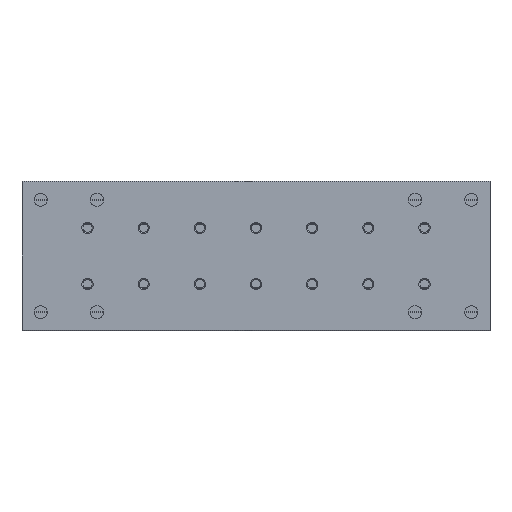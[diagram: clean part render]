
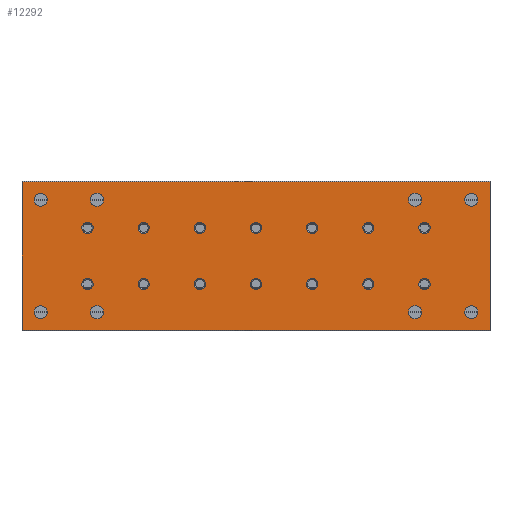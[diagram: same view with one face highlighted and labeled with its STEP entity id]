
A CAD part, front view. The second image highlights one B-rep face of the part: STEP entity #12292.
In plain terms, the highlighted planar face has unit normal (0, -1, 0).
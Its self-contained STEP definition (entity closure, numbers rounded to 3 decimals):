
#577=LINE('',#18940,#1627);
#599=LINE('',#18984,#1649);
#601=LINE('',#19032,#1651);
#602=LINE('',#19034,#1652);
#1627=VECTOR('',#14722,1000.);
#1649=VECTOR('',#14750,1000.);
#1651=VECTOR('',#14798,1000.);
#1652=VECTOR('',#14799,1000.);
#2790=ORIENTED_EDGE('',*,*,#6449,.F.);
#2791=ORIENTED_EDGE('',*,*,#6450,.F.);
#2792=ORIENTED_EDGE('',*,*,#6451,.F.);
#2793=ORIENTED_EDGE('',*,*,#6452,.F.);
#2794=ORIENTED_EDGE('',*,*,#6453,.F.);
#2795=ORIENTED_EDGE('',*,*,#6454,.F.);
#2796=ORIENTED_EDGE('',*,*,#6455,.F.);
#2797=ORIENTED_EDGE('',*,*,#6456,.F.);
#2798=ORIENTED_EDGE('',*,*,#6457,.F.);
#2799=ORIENTED_EDGE('',*,*,#6458,.F.);
#2800=ORIENTED_EDGE('',*,*,#6459,.F.);
#2801=ORIENTED_EDGE('',*,*,#6460,.F.);
#2802=ORIENTED_EDGE('',*,*,#6461,.F.);
#2803=ORIENTED_EDGE('',*,*,#6462,.F.);
#2804=ORIENTED_EDGE('',*,*,#6463,.F.);
#2805=ORIENTED_EDGE('',*,*,#6464,.F.);
#2806=ORIENTED_EDGE('',*,*,#6465,.F.);
#2807=ORIENTED_EDGE('',*,*,#6466,.F.);
#2808=ORIENTED_EDGE('',*,*,#6467,.T.);
#2809=ORIENTED_EDGE('',*,*,#6468,.F.);
#2810=ORIENTED_EDGE('',*,*,#6469,.F.);
#2811=ORIENTED_EDGE('',*,*,#6470,.F.);
#2812=ORIENTED_EDGE('',*,*,#6425,.T.);
#2813=ORIENTED_EDGE('',*,*,#6471,.F.);
#2814=ORIENTED_EDGE('',*,*,#6472,.F.);
#2815=ORIENTED_EDGE('',*,*,#6447,.T.);
#6425=EDGE_CURVE('',#8243,#8242,#577,.T.);
#6447=EDGE_CURVE('',#8262,#8243,#599,.T.);
#6449=EDGE_CURVE('',#8263,#8263,#9380,.T.);
#6450=EDGE_CURVE('',#8264,#8264,#9381,.T.);
#6451=EDGE_CURVE('',#8265,#8265,#9382,.T.);
#6452=EDGE_CURVE('',#8266,#8266,#9383,.T.);
#6453=EDGE_CURVE('',#8267,#8267,#9384,.T.);
#6454=EDGE_CURVE('',#8268,#8268,#9385,.T.);
#6455=EDGE_CURVE('',#8269,#8269,#9386,.T.);
#6456=EDGE_CURVE('',#8270,#8270,#9387,.T.);
#6457=EDGE_CURVE('',#8271,#8271,#9388,.T.);
#6458=EDGE_CURVE('',#8272,#8272,#9389,.T.);
#6459=EDGE_CURVE('',#8273,#8273,#9390,.T.);
#6460=EDGE_CURVE('',#8274,#8274,#9391,.T.);
#6461=EDGE_CURVE('',#8275,#8275,#9392,.T.);
#6462=EDGE_CURVE('',#8276,#8276,#9393,.T.);
#6463=EDGE_CURVE('',#8277,#8277,#9394,.T.);
#6464=EDGE_CURVE('',#8278,#8278,#9395,.T.);
#6465=EDGE_CURVE('',#8279,#8279,#9396,.T.);
#6466=EDGE_CURVE('',#8280,#8280,#9397,.T.);
#6467=EDGE_CURVE('',#8281,#8281,#9398,.T.);
#6468=EDGE_CURVE('',#8282,#8282,#9399,.T.);
#6469=EDGE_CURVE('',#8283,#8283,#9400,.T.);
#6470=EDGE_CURVE('',#8284,#8284,#9401,.T.);
#6471=EDGE_CURVE('',#8285,#8242,#601,.T.);
#6472=EDGE_CURVE('',#8262,#8285,#602,.T.);
#8242=VERTEX_POINT('',#18939);
#8243=VERTEX_POINT('',#18941);
#8262=VERTEX_POINT('',#18985);
#8263=VERTEX_POINT('',#18989);
#8264=VERTEX_POINT('',#18991);
#8265=VERTEX_POINT('',#18993);
#8266=VERTEX_POINT('',#18995);
#8267=VERTEX_POINT('',#18997);
#8268=VERTEX_POINT('',#18999);
#8269=VERTEX_POINT('',#19001);
#8270=VERTEX_POINT('',#19003);
#8271=VERTEX_POINT('',#19005);
#8272=VERTEX_POINT('',#19007);
#8273=VERTEX_POINT('',#19009);
#8274=VERTEX_POINT('',#19011);
#8275=VERTEX_POINT('',#19013);
#8276=VERTEX_POINT('',#19015);
#8277=VERTEX_POINT('',#19017);
#8278=VERTEX_POINT('',#19019);
#8279=VERTEX_POINT('',#19021);
#8280=VERTEX_POINT('',#19023);
#8281=VERTEX_POINT('',#19025);
#8282=VERTEX_POINT('',#19027);
#8283=VERTEX_POINT('',#19029);
#8284=VERTEX_POINT('',#19031);
#8285=VERTEX_POINT('',#19033);
#9380=CIRCLE('',#13054,1.5);
#9381=CIRCLE('',#13055,1.5);
#9382=CIRCLE('',#13056,1.5);
#9383=CIRCLE('',#13057,1.5);
#9384=CIRCLE('',#13058,1.5);
#9385=CIRCLE('',#13059,1.5);
#9386=CIRCLE('',#13060,1.5);
#9387=CIRCLE('',#13061,1.5);
#9388=CIRCLE('',#13062,1.5);
#9389=CIRCLE('',#13063,1.5);
#9390=CIRCLE('',#13064,1.5);
#9391=CIRCLE('',#13065,1.5);
#9392=CIRCLE('',#13066,1.5);
#9393=CIRCLE('',#13067,1.5);
#9394=CIRCLE('',#13068,1.75);
#9395=CIRCLE('',#13069,1.75);
#9396=CIRCLE('',#13070,1.75);
#9397=CIRCLE('',#13071,1.75);
#9398=CIRCLE('',#13072,1.75);
#9399=CIRCLE('',#13073,1.75);
#9400=CIRCLE('',#13074,1.75);
#9401=CIRCLE('',#13075,1.75);
#10165=EDGE_LOOP('',(#2790));
#10166=EDGE_LOOP('',(#2791));
#10167=EDGE_LOOP('',(#2792));
#10168=EDGE_LOOP('',(#2793));
#10169=EDGE_LOOP('',(#2794));
#10170=EDGE_LOOP('',(#2795));
#10171=EDGE_LOOP('',(#2796));
#10172=EDGE_LOOP('',(#2797));
#10173=EDGE_LOOP('',(#2798));
#10174=EDGE_LOOP('',(#2799));
#10175=EDGE_LOOP('',(#2800));
#10176=EDGE_LOOP('',(#2801));
#10177=EDGE_LOOP('',(#2802));
#10178=EDGE_LOOP('',(#2803));
#10179=EDGE_LOOP('',(#2804));
#10180=EDGE_LOOP('',(#2805));
#10181=EDGE_LOOP('',(#2806));
#10182=EDGE_LOOP('',(#2807));
#10183=EDGE_LOOP('',(#2808));
#10184=EDGE_LOOP('',(#2809));
#10185=EDGE_LOOP('',(#2810));
#10186=EDGE_LOOP('',(#2811));
#10187=EDGE_LOOP('',(#2812,#2813,#2814,#2815));
#11069=FACE_BOUND('',#10165,.T.);
#11070=FACE_BOUND('',#10166,.T.);
#11071=FACE_BOUND('',#10167,.T.);
#11072=FACE_BOUND('',#10168,.T.);
#11073=FACE_BOUND('',#10169,.T.);
#11074=FACE_BOUND('',#10170,.T.);
#11075=FACE_BOUND('',#10171,.T.);
#11076=FACE_BOUND('',#10172,.T.);
#11077=FACE_BOUND('',#10173,.T.);
#11078=FACE_BOUND('',#10174,.T.);
#11079=FACE_BOUND('',#10175,.T.);
#11080=FACE_BOUND('',#10176,.T.);
#11081=FACE_BOUND('',#10177,.T.);
#11082=FACE_BOUND('',#10178,.T.);
#11083=FACE_BOUND('',#10179,.T.);
#11084=FACE_BOUND('',#10180,.T.);
#11085=FACE_BOUND('',#10181,.T.);
#11086=FACE_BOUND('',#10182,.T.);
#11087=FACE_BOUND('',#10183,.T.);
#11088=FACE_BOUND('',#10184,.T.);
#11089=FACE_BOUND('',#10185,.T.);
#11090=FACE_BOUND('',#10186,.T.);
#11091=FACE_BOUND('',#10187,.T.);
#11973=PLANE('',#13053);
#12292=ADVANCED_FACE('',(#11069,#11070,#11071,#11072,#11073,#11074,#11075,
#11076,#11077,#11078,#11079,#11080,#11081,#11082,#11083,#11084,#11085,#11086,
#11087,#11088,#11089,#11090,#11091),#11973,.F.);
#13053=AXIS2_PLACEMENT_3D('',#18987,#14752,#14753);
#13054=AXIS2_PLACEMENT_3D('',#18988,#14754,#14755);
#13055=AXIS2_PLACEMENT_3D('',#18990,#14756,#14757);
#13056=AXIS2_PLACEMENT_3D('',#18992,#14758,#14759);
#13057=AXIS2_PLACEMENT_3D('',#18994,#14760,#14761);
#13058=AXIS2_PLACEMENT_3D('',#18996,#14762,#14763);
#13059=AXIS2_PLACEMENT_3D('',#18998,#14764,#14765);
#13060=AXIS2_PLACEMENT_3D('',#19000,#14766,#14767);
#13061=AXIS2_PLACEMENT_3D('',#19002,#14768,#14769);
#13062=AXIS2_PLACEMENT_3D('',#19004,#14770,#14771);
#13063=AXIS2_PLACEMENT_3D('',#19006,#14772,#14773);
#13064=AXIS2_PLACEMENT_3D('',#19008,#14774,#14775);
#13065=AXIS2_PLACEMENT_3D('',#19010,#14776,#14777);
#13066=AXIS2_PLACEMENT_3D('',#19012,#14778,#14779);
#13067=AXIS2_PLACEMENT_3D('',#19014,#14780,#14781);
#13068=AXIS2_PLACEMENT_3D('',#19016,#14782,#14783);
#13069=AXIS2_PLACEMENT_3D('',#19018,#14784,#14785);
#13070=AXIS2_PLACEMENT_3D('',#19020,#14786,#14787);
#13071=AXIS2_PLACEMENT_3D('',#19022,#14788,#14789);
#13072=AXIS2_PLACEMENT_3D('',#19024,#14790,#14791);
#13073=AXIS2_PLACEMENT_3D('',#19026,#14792,#14793);
#13074=AXIS2_PLACEMENT_3D('',#19028,#14794,#14795);
#13075=AXIS2_PLACEMENT_3D('',#19030,#14796,#14797);
#14722=DIRECTION('',(0.,0.,-1.));
#14750=DIRECTION('',(-1.,0.,0.));
#14752=DIRECTION('',(0.,1.,0.));
#14753=DIRECTION('',(0.,0.,1.));
#14754=DIRECTION('',(0.,-1.,0.));
#14755=DIRECTION('',(0.,0.,-1.));
#14756=DIRECTION('',(0.,-1.,0.));
#14757=DIRECTION('',(0.,0.,-1.));
#14758=DIRECTION('',(0.,-1.,0.));
#14759=DIRECTION('',(0.,0.,-1.));
#14760=DIRECTION('',(0.,-1.,0.));
#14761=DIRECTION('',(0.,0.,-1.));
#14762=DIRECTION('',(0.,-1.,0.));
#14763=DIRECTION('',(0.,0.,-1.));
#14764=DIRECTION('',(0.,-1.,0.));
#14765=DIRECTION('',(0.,0.,-1.));
#14766=DIRECTION('',(0.,-1.,0.));
#14767=DIRECTION('',(0.,0.,-1.));
#14768=DIRECTION('',(0.,-1.,0.));
#14769=DIRECTION('',(0.,0.,-1.));
#14770=DIRECTION('',(0.,-1.,0.));
#14771=DIRECTION('',(0.,0.,-1.));
#14772=DIRECTION('',(0.,-1.,0.));
#14773=DIRECTION('',(0.,0.,-1.));
#14774=DIRECTION('',(0.,-1.,0.));
#14775=DIRECTION('',(0.,0.,-1.));
#14776=DIRECTION('',(0.,-1.,0.));
#14777=DIRECTION('',(0.,0.,-1.));
#14778=DIRECTION('',(0.,-1.,0.));
#14779=DIRECTION('',(0.,0.,-1.));
#14780=DIRECTION('',(0.,-1.,0.));
#14781=DIRECTION('',(0.,0.,-1.));
#14782=DIRECTION('',(0.,-1.,0.));
#14783=DIRECTION('',(0.,0.,-1.));
#14784=DIRECTION('',(0.,-1.,0.));
#14785=DIRECTION('',(0.,0.,-1.));
#14786=DIRECTION('',(0.,-1.,0.));
#14787=DIRECTION('',(0.,0.,-1.));
#14788=DIRECTION('',(0.,-1.,0.));
#14789=DIRECTION('',(0.,0.,-1.));
#14790=DIRECTION('',(0.,1.,0.));
#14791=DIRECTION('',(0.,0.,1.));
#14792=DIRECTION('',(0.,-1.,0.));
#14793=DIRECTION('',(0.,0.,-1.));
#14794=DIRECTION('',(0.,-1.,0.));
#14795=DIRECTION('',(0.,0.,-1.));
#14796=DIRECTION('',(0.,-1.,0.));
#14797=DIRECTION('',(0.,0.,-1.));
#14798=DIRECTION('',(-1.,0.,0.));
#14799=DIRECTION('',(0.,0.,-1.));
#18939=CARTESIAN_POINT('',(0.,0.,-19.85));
#18940=CARTESIAN_POINT('',(0.,0.,19.85));
#18941=CARTESIAN_POINT('',(0.,0.,19.85));
#18984=CARTESIAN_POINT('',(125.,0.,19.85));
#18985=CARTESIAN_POINT('',(125.,0.,19.85));
#18987=CARTESIAN_POINT('',(125.,0.,19.85));
#18988=CARTESIAN_POINT('',(107.5,0.,-7.5));
#18989=CARTESIAN_POINT('',(107.5,0.,-9.));
#18990=CARTESIAN_POINT('',(107.5,0.,7.5));
#18991=CARTESIAN_POINT('',(107.5,0.,6.));
#18992=CARTESIAN_POINT('',(17.5,0.,-7.5));
#18993=CARTESIAN_POINT('',(17.5,0.,-9.));
#18994=CARTESIAN_POINT('',(17.5,0.,7.5));
#18995=CARTESIAN_POINT('',(17.5,0.,6.));
#18996=CARTESIAN_POINT('',(32.5,0.,-7.5));
#18997=CARTESIAN_POINT('',(32.5,0.,-9.));
#18998=CARTESIAN_POINT('',(32.5,0.,7.5));
#18999=CARTESIAN_POINT('',(32.5,0.,6.));
#19000=CARTESIAN_POINT('',(92.5,0.,-7.5));
#19001=CARTESIAN_POINT('',(92.5,0.,-9.));
#19002=CARTESIAN_POINT('',(92.5,0.,7.5));
#19003=CARTESIAN_POINT('',(92.5,0.,6.));
#19004=CARTESIAN_POINT('',(77.5,0.,-7.5));
#19005=CARTESIAN_POINT('',(77.5,0.,-9.));
#19006=CARTESIAN_POINT('',(77.5,0.,7.5));
#19007=CARTESIAN_POINT('',(77.5,0.,6.));
#19008=CARTESIAN_POINT('',(47.5,0.,-7.5));
#19009=CARTESIAN_POINT('',(47.5,0.,-9.));
#19010=CARTESIAN_POINT('',(47.5,0.,7.5));
#19011=CARTESIAN_POINT('',(47.5,0.,6.));
#19012=CARTESIAN_POINT('',(62.5,0.,-7.5));
#19013=CARTESIAN_POINT('',(62.5,0.,-9.));
#19014=CARTESIAN_POINT('',(62.5,0.,7.5));
#19015=CARTESIAN_POINT('',(62.5,0.,6.));
#19016=CARTESIAN_POINT('',(105.,0.,15.));
#19017=CARTESIAN_POINT('',(105.,0.,13.25));
#19018=CARTESIAN_POINT('',(105.,0.,-15.));
#19019=CARTESIAN_POINT('',(105.,0.,-16.75));
#19020=CARTESIAN_POINT('',(20.,0.,15.));
#19021=CARTESIAN_POINT('',(20.,0.,13.25));
#19022=CARTESIAN_POINT('',(20.,0.,-15.));
#19023=CARTESIAN_POINT('',(20.,0.,-16.75));
#19024=CARTESIAN_POINT('',(120.,0.,15.));
#19025=CARTESIAN_POINT('',(120.,0.,16.75));
#19026=CARTESIAN_POINT('',(120.,0.,-15.));
#19027=CARTESIAN_POINT('',(120.,0.,-16.75));
#19028=CARTESIAN_POINT('',(5.,0.,-15.));
#19029=CARTESIAN_POINT('',(5.,0.,-16.75));
#19030=CARTESIAN_POINT('',(5.,0.,15.));
#19031=CARTESIAN_POINT('',(5.,0.,13.25));
#19032=CARTESIAN_POINT('',(125.,0.,-19.85));
#19033=CARTESIAN_POINT('',(125.,0.,-19.85));
#19034=CARTESIAN_POINT('',(125.,0.,19.85));
